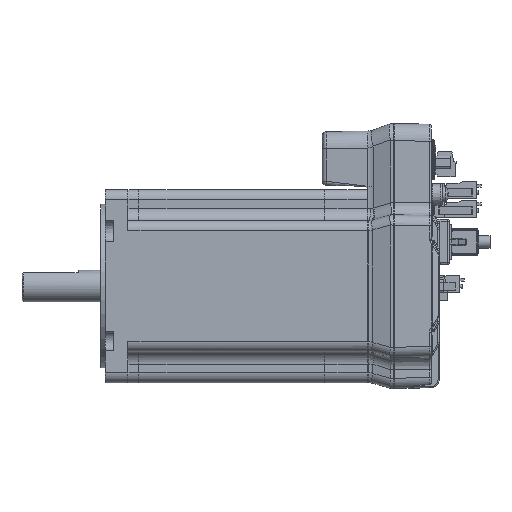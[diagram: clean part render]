
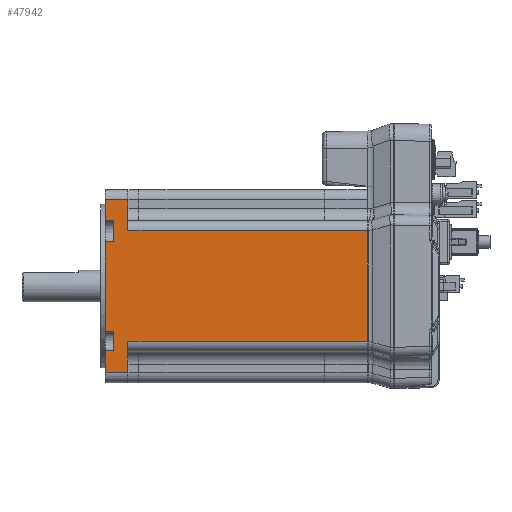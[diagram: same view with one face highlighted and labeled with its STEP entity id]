
A CAD part, left-side view. The second image highlights one B-rep face of the part: STEP entity #47942.
In plain terms, the highlighted planar face has unit normal (-1, 0, 0).
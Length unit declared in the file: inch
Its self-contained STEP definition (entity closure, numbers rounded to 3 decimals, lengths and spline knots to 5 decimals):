
#39510=CARTESIAN_POINT('',(-1.695,5.26028,-0.801));
#39511=VERTEX_POINT('',#39510);
#39518=CARTESIAN_POINT('',(-1.695,5.40628,-0.801));
#39519=VERTEX_POINT('',#39518);
#39520=CARTESIAN_POINT('',(-1.695,4.39028,-0.801));
#39521=DIRECTION('',(0.,-1.,0.));
#39522=VECTOR('',#39521,1.);
#39523=LINE('',#39520,#39522);
#39524=EDGE_CURVE('',#39519,#39511,#39523,.T.);
#45187=CARTESIAN_POINT('',(-1.69508,0.80275,0.97109));
#45188=VERTEX_POINT('',#45187);
#45250=CARTESIAN_POINT('',(-1.69508,0.80275,-0.97109));
#45251=VERTEX_POINT('',#45250);
#45918=CARTESIAN_POINT('',(-1.695,0.80731,-0.4855));
#45919=DIRECTION('',(0.,0.,-1.));
#45920=VECTOR('',#45919,1.);
#45921=LINE('',#45918,#45920);
#45922=EDGE_CURVE('',#45188,#45251,#45921,.T.);
#47793=CARTESIAN_POINT('',(-1.695,5.26028,0.78096));
#47794=VERTEX_POINT('',#47793);
#47801=CARTESIAN_POINT('',(-1.695,5.26028,1.15104));
#47802=VERTEX_POINT('',#47801);
#47803=CARTESIAN_POINT('',(-1.695,5.26028,0.9635));
#47804=DIRECTION('',(0.,0.,-1.));
#47805=VECTOR('',#47804,1.);
#47806=LINE('',#47803,#47805);
#47807=EDGE_CURVE('',#47802,#47794,#47806,.T.);
#47834=CARTESIAN_POINT('',(-1.695,5.40628,0.77841));
#47835=VERTEX_POINT('',#47834);
#47836=CARTESIAN_POINT('',(-1.695,4.30618,0.79761));
#47837=DIRECTION('',(0.,1.,-0.017));
#47838=VECTOR('',#47837,1.);
#47839=LINE('',#47836,#47838);
#47840=EDGE_CURVE('',#47794,#47835,#47839,.T.);
#47841=ORIENTED_EDGE('',*,*,#47840,.T.);
#47842=CARTESIAN_POINT('',(-1.695,5.40628,-0.4855));
#47843=DIRECTION('',(0.,0.,1.));
#47844=VECTOR('',#47843,1.);
#47845=LINE('',#47842,#47844);
#47846=EDGE_CURVE('',#39519,#47835,#47845,.T.);
#47847=ORIENTED_EDGE('',*,*,#47846,.F.);
#47848=ORIENTED_EDGE('',*,*,#39524,.T.);
#47849=CARTESIAN_POINT('',(-1.695,5.26028,-1.131));
#47850=VERTEX_POINT('',#47849);
#47851=CARTESIAN_POINT('',(-1.695,5.26028,-0.0025));
#47852=DIRECTION('',(0.,0.,1.));
#47853=VECTOR('',#47852,1.);
#47854=LINE('',#47851,#47853);
#47855=EDGE_CURVE('',#47850,#39511,#47854,.T.);
#47856=ORIENTED_EDGE('',*,*,#47855,.F.);
#47857=CARTESIAN_POINT('',(-1.695,5.40628,-1.131));
#47858=VERTEX_POINT('',#47857);
#47859=CARTESIAN_POINT('',(-1.695,4.39028,-1.131));
#47860=DIRECTION('',(0.,1.,0.));
#47861=VECTOR('',#47860,1.);
#47862=LINE('',#47859,#47861);
#47863=EDGE_CURVE('',#47850,#47858,#47862,.T.);
#47864=ORIENTED_EDGE('',*,*,#47863,.T.);
#47865=CARTESIAN_POINT('',(-1.695,5.40628,-1.515));
#47866=VERTEX_POINT('',#47865);
#47867=CARTESIAN_POINT('',(-1.695,5.40628,-0.4855));
#47868=DIRECTION('',(0.,0.,1.));
#47869=VECTOR('',#47868,1.);
#47870=LINE('',#47867,#47869);
#47871=EDGE_CURVE('',#47866,#47858,#47870,.T.);
#47872=ORIENTED_EDGE('',*,*,#47871,.F.);
#47873=CARTESIAN_POINT('',(-1.695,5.00628,-1.515));
#47874=VERTEX_POINT('',#47873);
#47875=CARTESIAN_POINT('',(-1.695,5.04528,-1.515));
#47876=DIRECTION('',(0.,1.,0.));
#47877=VECTOR('',#47876,39.37008);
#47878=LINE('',#47875,#47877);
#47879=EDGE_CURVE('',#47874,#47866,#47878,.T.);
#47880=ORIENTED_EDGE('',*,*,#47879,.F.);
#47881=CARTESIAN_POINT('',(-1.695,5.00628,-0.971));
#47882=VERTEX_POINT('',#47881);
#47883=CARTESIAN_POINT('',(-1.695,5.00628,-0.4855));
#47884=DIRECTION('',(0.,0.,1.));
#47885=VECTOR('',#47884,1.);
#47886=LINE('',#47883,#47885);
#47887=EDGE_CURVE('',#47874,#47882,#47886,.T.);
#47888=ORIENTED_EDGE('',*,*,#47887,.T.);
#47889=CARTESIAN_POINT('',(-1.695,3.33528,-0.971));
#47890=DIRECTION('',(0.,-1.,0.));
#47891=VECTOR('',#47890,39.37008);
#47892=LINE('',#47889,#47891);
#47893=EDGE_CURVE('',#47882,#45251,#47892,.T.);
#47894=ORIENTED_EDGE('',*,*,#47893,.T.);
#47895=ORIENTED_EDGE('',*,*,#45922,.F.);
#47896=CARTESIAN_POINT('',(-1.695,5.00628,0.971));
#47897=VERTEX_POINT('',#47896);
#47898=CARTESIAN_POINT('',(-1.695,0.906,0.971));
#47899=DIRECTION('',(0.,1.,0.));
#47900=VECTOR('',#47899,39.37008);
#47901=LINE('',#47898,#47900);
#47902=EDGE_CURVE('',#45188,#47897,#47901,.T.);
#47903=ORIENTED_EDGE('',*,*,#47902,.T.);
#47904=CARTESIAN_POINT('',(-1.695,5.00628,1.515));
#47905=VERTEX_POINT('',#47904);
#47906=CARTESIAN_POINT('',(-1.695,5.00628,-0.4855));
#47907=DIRECTION('',(0.,0.,1.));
#47908=VECTOR('',#47907,1.);
#47909=LINE('',#47906,#47908);
#47910=EDGE_CURVE('',#47897,#47905,#47909,.T.);
#47911=ORIENTED_EDGE('',*,*,#47910,.T.);
#47912=CARTESIAN_POINT('',(-1.695,5.40628,1.515));
#47913=VERTEX_POINT('',#47912);
#47914=CARTESIAN_POINT('',(-1.695,5.04528,1.515));
#47915=DIRECTION('',(0.,1.,0.));
#47916=VECTOR('',#47915,39.37008);
#47917=LINE('',#47914,#47916);
#47918=EDGE_CURVE('',#47905,#47913,#47917,.T.);
#47919=ORIENTED_EDGE('',*,*,#47918,.T.);
#47920=CARTESIAN_POINT('',(-1.695,5.40628,1.15359));
#47921=VERTEX_POINT('',#47920);
#47922=CARTESIAN_POINT('',(-1.695,5.40628,-0.4855));
#47923=DIRECTION('',(0.,0.,1.));
#47924=VECTOR('',#47923,1.);
#47925=LINE('',#47922,#47924);
#47926=EDGE_CURVE('',#47921,#47913,#47925,.T.);
#47927=ORIENTED_EDGE('',*,*,#47926,.F.);
#47928=CARTESIAN_POINT('',(-1.695,4.27238,1.1338));
#47929=DIRECTION('',(0.,-1.,-0.017));
#47930=VECTOR('',#47929,1.);
#47931=LINE('',#47928,#47930);
#47932=EDGE_CURVE('',#47921,#47802,#47931,.T.);
#47933=ORIENTED_EDGE('',*,*,#47932,.T.);
#47934=ORIENTED_EDGE('',*,*,#47807,.T.);
#47935=EDGE_LOOP('',(#47841,#47847,#47848,#47856,#47864,#47872,#47880,#47888,#47894,#47895,#47903,#47911,#47919,#47927,#47933,#47934));
#47936=FACE_OUTER_BOUND('',#47935,.T.);
#47937=CARTESIAN_POINT('',(-1.695,3.33528,-0.971));
#47938=DIRECTION('',(-1.,0.,0.));
#47939=DIRECTION('',(0.,0.,-1.));
#47940=AXIS2_PLACEMENT_3D('',#47937,#47938,#47939);
#47941=PLANE('',#47940);
#47942=ADVANCED_FACE('',(#47936),#47941,.T.);
